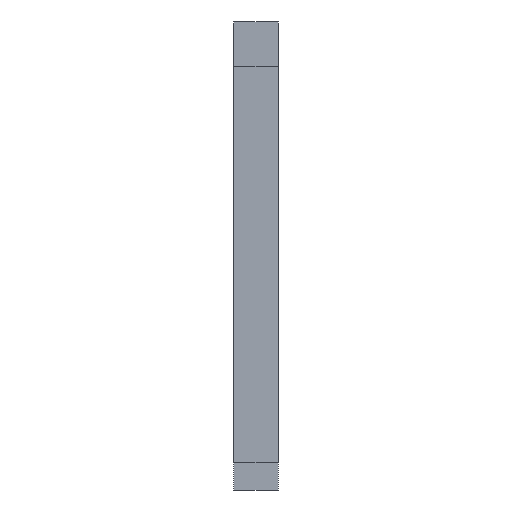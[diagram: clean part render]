
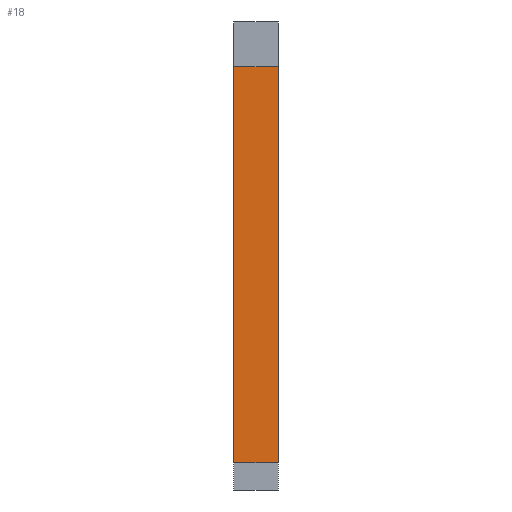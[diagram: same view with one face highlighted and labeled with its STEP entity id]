
A CAD part, front view. The second image highlights one B-rep face of the part: STEP entity #18.
In plain terms, the highlighted planar face has unit normal (0, -1, 0).
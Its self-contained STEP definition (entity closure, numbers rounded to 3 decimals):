
#18=ADVANCED_FACE('',(#68),#840,.T.);
#68=FACE_OUTER_BOUND('',#118,.T.);
#118=EDGE_LOOP('',(#177,#178,#179,#180));
#177=ORIENTED_EDGE('',*,*,#471,.T.);
#178=ORIENTED_EDGE('',*,*,#474,.T.);
#179=ORIENTED_EDGE('',*,*,#466,.F.);
#180=ORIENTED_EDGE('',*,*,#473,.F.);
#466=EDGE_CURVE('',#749,#752,#610,.T.);
#471=EDGE_CURVE('',#755,#756,#615,.T.);
#473=EDGE_CURVE('',#755,#749,#617,.T.);
#474=EDGE_CURVE('',#756,#752,#618,.T.);
#610=B_SPLINE_CURVE_WITH_KNOTS('',1,(#1181,#1182),.UNSPECIFIED.,.F.,.F.,
(2,2),(0.,44.),.UNSPECIFIED.);
#615=B_SPLINE_CURVE_WITH_KNOTS('',1,(#1191,#1192),.UNSPECIFIED.,.F.,.F.,
(2,2),(0.,44.),.UNSPECIFIED.);
#617=B_SPLINE_CURVE_WITH_KNOTS('',1,(#1195,#1196),.UNSPECIFIED.,.F.,.F.,
(2,2),(-5.,0.),.UNSPECIFIED.);
#618=B_SPLINE_CURVE_WITH_KNOTS('',1,(#1197,#1198),.UNSPECIFIED.,.F.,.F.,
(2,2),(-5.,0.),.UNSPECIFIED.);
#749=VERTEX_POINT('',#1067);
#752=VERTEX_POINT('',#1070);
#755=VERTEX_POINT('',#1073);
#756=VERTEX_POINT('',#1074);
#840=PLANE('',#909);
#909=AXIS2_PLACEMENT_3D('',#1013,#961,$);
#961=DIRECTION('',(0.,-1.,0.));
#1013=CARTESIAN_POINT('',(-32.876,149.,56.));
#1067=CARTESIAN_POINT('',(-27.876,149.,56.));
#1070=CARTESIAN_POINT('',(-27.876,149.,12.));
#1073=CARTESIAN_POINT('',(-32.876,149.,56.));
#1074=CARTESIAN_POINT('',(-32.876,149.,12.));
#1181=CARTESIAN_POINT('',(-27.876,149.,56.));
#1182=CARTESIAN_POINT('',(-27.876,149.,12.));
#1191=CARTESIAN_POINT('',(-32.876,149.,56.));
#1192=CARTESIAN_POINT('',(-32.876,149.,12.));
#1195=CARTESIAN_POINT('',(-32.876,149.,56.));
#1196=CARTESIAN_POINT('',(-27.876,149.,56.));
#1197=CARTESIAN_POINT('',(-32.876,149.,12.));
#1198=CARTESIAN_POINT('',(-27.876,149.,12.));
